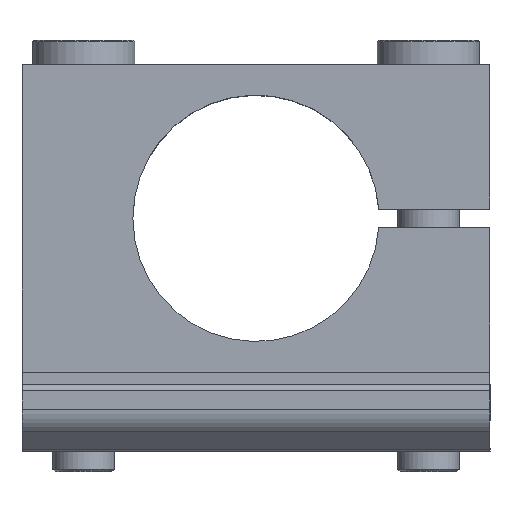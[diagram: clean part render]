
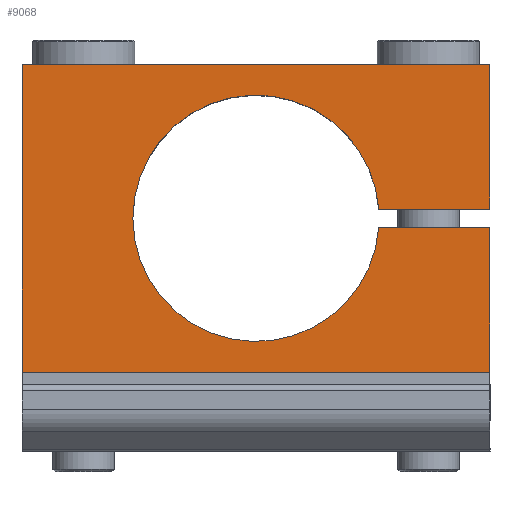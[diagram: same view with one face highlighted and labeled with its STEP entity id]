
A CAD part, top view. The second image highlights one B-rep face of the part: STEP entity #9068.
In plain terms, the highlighted planar face has unit normal (0, 0, 1).
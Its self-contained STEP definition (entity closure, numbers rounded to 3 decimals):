
#330 = CARTESIAN_POINT ( 'NONE',  ( -90.197, 50.22, 19.783 ) ) ;
#500 = EDGE_CURVE ( 'NONE', #6885, #4427, #8632, .T. ) ;
#654 = CARTESIAN_POINT ( 'NONE',  ( -61.225, 38.47, 19.783 ) ) ;
#806 = DIRECTION ( 'NONE',  ( 0., -1., 0. ) ) ;
#946 = CARTESIAN_POINT ( 'NONE',  ( -52.197, 50.22, 19.783 ) ) ;
#1107 = VERTEX_POINT ( 'NONE', #8620 ) ;
#1275 = CARTESIAN_POINT ( 'NONE',  ( -52.197, 38.47, 19.783 ) ) ;
#1280 = EDGE_LOOP ( 'NONE', ( #4728, #3888, #2519, #7002, #8904, #1398, #6978, #6438 ) ) ;
#1331 = DIRECTION ( 'NONE',  ( -1., 0., 0. ) ) ;
#1337 = CARTESIAN_POINT ( 'NONE',  ( -52.197, 25.22, 19.783 ) ) ;
#1390 = VERTEX_POINT ( 'NONE', #5967 ) ;
#1398 = ORIENTED_EDGE ( 'NONE', *, *, #8911, .F. ) ;
#1854 = DIRECTION ( 'NONE',  ( 0., -1., 0. ) ) ;
#2209 = CARTESIAN_POINT ( 'NONE',  ( -90.197, 50.22, 19.783 ) ) ;
#2263 = EDGE_CURVE ( 'NONE', #1107, #1390, #8957, .T. ) ;
#2519 = ORIENTED_EDGE ( 'NONE', *, *, #500, .F. ) ;
#2624 = VECTOR ( 'NONE', #1331, 1000. ) ;
#2922 = VECTOR ( 'NONE', #5338, 1000. ) ;
#3477 = VERTEX_POINT ( 'NONE', #330 ) ;
#3658 = FACE_OUTER_BOUND ( 'NONE', #1280, .T. ) ;
#3888 = ORIENTED_EDGE ( 'NONE', *, *, #6370, .F. ) ;
#4085 = VERTEX_POINT ( 'NONE', #5571 ) ;
#4200 = DIRECTION ( 'NONE',  ( -1., 0., 0. ) ) ;
#4204 = DIRECTION ( 'NONE',  ( 0., 0., -1. ) ) ;
#4220 = PLANE ( 'NONE',  #4386 ) ;
#4263 = CARTESIAN_POINT ( 'NONE',  ( 0., 0., 19.783 ) ) ;
#4368 = LINE ( 'NONE', #1337, #6017 ) ;
#4386 = AXIS2_PLACEMENT_3D ( 'NONE', #4263, #4204, #4200 ) ;
#4427 = VERTEX_POINT ( 'NONE', #654 ) ;
#4728 = ORIENTED_EDGE ( 'NONE', *, *, #8862, .F. ) ;
#4751 = LINE ( 'NONE', #5325, #8659 ) ;
#5004 = LINE ( 'NONE', #946, #8705 ) ;
#5245 = EDGE_CURVE ( 'NONE', #1390, #7943, #4368, .T. ) ;
#5261 = VECTOR ( 'NONE', #1854, 1000. ) ;
#5325 = CARTESIAN_POINT ( 'NONE',  ( -90.197, 24.22, 19.783 ) ) ;
#5338 = DIRECTION ( 'NONE',  ( 1., 0., 0. ) ) ;
#5368 = DIRECTION ( 'NONE',  ( 0., 1., 0. ) ) ;
#5571 = CARTESIAN_POINT ( 'NONE',  ( -61.225, 36.97, 19.783 ) ) ;
#5636 = EDGE_CURVE ( 'NONE', #3477, #8612, #6721, .T. ) ;
#5654 = CARTESIAN_POINT ( 'NONE',  ( -61.225, 36.97, 19.783 ) ) ;
#5668 = DIRECTION ( 'NONE',  ( 1., 0., 0. ) ) ;
#5967 = CARTESIAN_POINT ( 'NONE',  ( -52.197, 25.22, 19.783 ) ) ;
#6017 = VECTOR ( 'NONE', #7323, 1000. ) ;
#6061 = EDGE_CURVE ( 'NONE', #8612, #6885, #5004, .T. ) ;
#6236 = CARTESIAN_POINT ( 'NONE',  ( -52.197, 38.47, 19.783 ) ) ;
#6370 = EDGE_CURVE ( 'NONE', #4427, #4085, #8355, .T. ) ;
#6438 = ORIENTED_EDGE ( 'NONE', *, *, #2263, .F. ) ;
#6651 = CARTESIAN_POINT ( 'NONE',  ( -90.197, 25.22, 19.783 ) ) ;
#6721 = LINE ( 'NONE', #2209, #2922 ) ;
#6885 = VERTEX_POINT ( 'NONE', #6236 ) ;
#6978 = ORIENTED_EDGE ( 'NONE', *, *, #5245, .F. ) ;
#7002 = ORIENTED_EDGE ( 'NONE', *, *, #6061, .F. ) ;
#7139 = VECTOR ( 'NONE', #5668, 1000. ) ;
#7174 = CARTESIAN_POINT ( 'NONE',  ( -52.197, 50.22, 19.783 ) ) ;
#7323 = DIRECTION ( 'NONE',  ( -1., 0., 0. ) ) ;
#7602 = LINE ( 'NONE', #5654, #7139 ) ;
#7943 = VERTEX_POINT ( 'NONE', #6651 ) ;
#8102 = DIRECTION ( 'NONE',  ( 1., 0., 0. ) ) ;
#8134 = DIRECTION ( 'NONE',  ( 0., 0., 1. ) ) ;
#8163 = CARTESIAN_POINT ( 'NONE',  ( -71.197, 37.72, 19.783 ) ) ;
#8186 = AXIS2_PLACEMENT_3D ( 'NONE', #8163, #8134, #8102 ) ;
#8355 = CIRCLE ( 'NONE', #8186, 10. ) ;
#8612 = VERTEX_POINT ( 'NONE', #7174 ) ;
#8620 = CARTESIAN_POINT ( 'NONE',  ( -52.197, 36.97, 19.783 ) ) ;
#8632 = LINE ( 'NONE', #1275, #2624 ) ;
#8659 = VECTOR ( 'NONE', #5368, 1000. ) ;
#8705 = VECTOR ( 'NONE', #806, 1000. ) ;
#8862 = EDGE_CURVE ( 'NONE', #4085, #1107, #7602, .T. ) ;
#8880 = CARTESIAN_POINT ( 'NONE',  ( -52.197, 50.22, 19.783 ) ) ;
#8904 = ORIENTED_EDGE ( 'NONE', *, *, #5636, .F. ) ;
#8911 = EDGE_CURVE ( 'NONE', #7943, #3477, #4751, .T. ) ;
#8957 = LINE ( 'NONE', #8880, #5261 ) ;
#9068 = ADVANCED_FACE ( 'NONE', ( #3658 ), #4220, .F. ) ;
